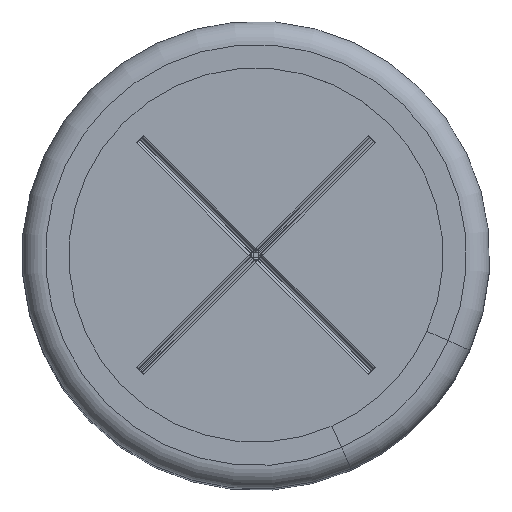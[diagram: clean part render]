
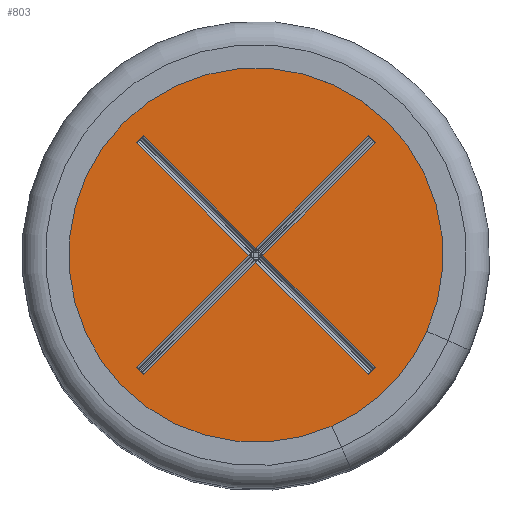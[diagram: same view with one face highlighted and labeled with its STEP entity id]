
A CAD part, top view. The second image highlights one B-rep face of the part: STEP entity #803.
In plain terms, the highlighted planar face has unit normal (0, 0, 1).
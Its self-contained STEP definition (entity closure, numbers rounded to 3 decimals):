
#176=FACE_BOUND('',#1284,.T.);
#177=FACE_BOUND('',#1285,.T.);
#687=PLANE('',#4047);
#803=ADVANCED_FACE('',(#176,#177),#687,.T.);
#1284=EDGE_LOOP('',(#2130));
#1285=EDGE_LOOP('',(#2131,#2132,#2133,#2134,#2135,#2136,#2137,#2138,#2139,
#2140,#2141,#2142));
#1517=LINE('',#5710,#1771);
#1518=LINE('',#5713,#1772);
#1519=LINE('',#5715,#1773);
#1520=LINE('',#5717,#1774);
#1521=LINE('',#5719,#1775);
#1522=LINE('',#5721,#1776);
#1523=LINE('',#5723,#1777);
#1524=LINE('',#5725,#1778);
#1525=LINE('',#5727,#1779);
#1526=LINE('',#5729,#1780);
#1527=LINE('',#5731,#1781);
#1528=LINE('',#5733,#1782);
#1771=VECTOR('',#4590,1.);
#1772=VECTOR('',#4591,1.);
#1773=VECTOR('',#4592,1.);
#1774=VECTOR('',#4593,1.);
#1775=VECTOR('',#4594,1.);
#1776=VECTOR('',#4595,1.);
#1777=VECTOR('',#4596,1.);
#1778=VECTOR('',#4597,1.);
#1779=VECTOR('',#4598,1.);
#1780=VECTOR('',#4599,1.);
#1781=VECTOR('',#4600,1.);
#1782=VECTOR('',#4601,1.);
#2130=ORIENTED_EDGE('',*,*,#3368,.F.);
#2131=ORIENTED_EDGE('',*,*,#3369,.F.);
#2132=ORIENTED_EDGE('',*,*,#3370,.T.);
#2133=ORIENTED_EDGE('',*,*,#3371,.T.);
#2134=ORIENTED_EDGE('',*,*,#3372,.T.);
#2135=ORIENTED_EDGE('',*,*,#3373,.T.);
#2136=ORIENTED_EDGE('',*,*,#3374,.T.);
#2137=ORIENTED_EDGE('',*,*,#3375,.T.);
#2138=ORIENTED_EDGE('',*,*,#3376,.T.);
#2139=ORIENTED_EDGE('',*,*,#3377,.T.);
#2140=ORIENTED_EDGE('',*,*,#3378,.F.);
#2141=ORIENTED_EDGE('',*,*,#3379,.T.);
#2142=ORIENTED_EDGE('',*,*,#3380,.T.);
#3038=VERTEX_POINT('',#5709);
#3039=VERTEX_POINT('',#5711);
#3040=VERTEX_POINT('',#5712);
#3041=VERTEX_POINT('',#5714);
#3042=VERTEX_POINT('',#5716);
#3043=VERTEX_POINT('',#5718);
#3044=VERTEX_POINT('',#5720);
#3045=VERTEX_POINT('',#5722);
#3046=VERTEX_POINT('',#5724);
#3047=VERTEX_POINT('',#5726);
#3048=VERTEX_POINT('',#5728);
#3049=VERTEX_POINT('',#5730);
#3050=VERTEX_POINT('',#5732);
#3368=EDGE_CURVE('',#3038,#3038,#3826,.T.);
#3369=EDGE_CURVE('',#3039,#3040,#1517,.T.);
#3370=EDGE_CURVE('',#3039,#3041,#1518,.T.);
#3371=EDGE_CURVE('',#3041,#3042,#1519,.T.);
#3372=EDGE_CURVE('',#3042,#3043,#1520,.T.);
#3373=EDGE_CURVE('',#3043,#3044,#1521,.T.);
#3374=EDGE_CURVE('',#3044,#3045,#1522,.T.);
#3375=EDGE_CURVE('',#3045,#3046,#1523,.T.);
#3376=EDGE_CURVE('',#3046,#3047,#1524,.T.);
#3377=EDGE_CURVE('',#3047,#3048,#1525,.T.);
#3378=EDGE_CURVE('',#3049,#3048,#1526,.T.);
#3379=EDGE_CURVE('',#3049,#3050,#1527,.T.);
#3380=EDGE_CURVE('',#3050,#3040,#1528,.T.);
#3826=CIRCLE('',#4046,9.);
#4046=AXIS2_PLACEMENT_3D('',#5708,#4588,#4589);
#4047=AXIS2_PLACEMENT_3D('',#5734,#4602,#4603);
#4588=DIRECTION('',(0.,0.,-1.));
#4589=DIRECTION('',(-1.,0.,0.));
#4590=DIRECTION('',(0.707,-0.707,0.));
#4591=DIRECTION('',(0.707,0.707,0.));
#4592=DIRECTION('',(-0.707,0.707,0.));
#4593=DIRECTION('',(0.707,0.707,0.));
#4594=DIRECTION('',(0.707,-0.707,0.));
#4595=DIRECTION('',(0.707,0.707,0.));
#4596=DIRECTION('',(0.707,-0.707,0.));
#4597=DIRECTION('',(-0.707,-0.707,0.));
#4598=DIRECTION('',(0.707,-0.707,0.));
#4599=DIRECTION('',(0.707,0.707,0.));
#4600=DIRECTION('',(-0.707,0.707,0.));
#4601=DIRECTION('',(-0.707,-0.707,0.));
#4602=DIRECTION('',(0.,0.,1.));
#4603=DIRECTION('',(1.,0.,0.));
#5708=CARTESIAN_POINT('',(0.,0.,39.8));
#5709=CARTESIAN_POINT('',(-9.,0.,39.8));
#5710=CARTESIAN_POINT('',(-5.056,-4.844,39.8));
#5711=CARTESIAN_POINT('',(-5.1,-4.8,39.8));
#5712=CARTESIAN_POINT('',(-4.8,-5.1,39.8));
#5713=CARTESIAN_POINT('',(-4.65,-4.35,39.8));
#5714=CARTESIAN_POINT('',(-0.3,0.,39.8));
#5715=CARTESIAN_POINT('',(-4.65,4.35,39.8));
#5716=CARTESIAN_POINT('',(-5.1,4.8,39.8));
#5717=CARTESIAN_POINT('',(-4.844,5.056,39.8));
#5718=CARTESIAN_POINT('',(-4.8,5.1,39.8));
#5719=CARTESIAN_POINT('',(-4.35,4.65,39.8));
#5720=CARTESIAN_POINT('',(0.,0.3,39.8));
#5721=CARTESIAN_POINT('',(-4.65,-4.35,39.8));
#5722=CARTESIAN_POINT('',(4.8,5.1,39.8));
#5723=CARTESIAN_POINT('',(4.844,5.056,39.8));
#5724=CARTESIAN_POINT('',(5.1,4.8,39.8));
#5725=CARTESIAN_POINT('',(-4.35,-4.65,39.8));
#5726=CARTESIAN_POINT('',(0.3,0.,39.8));
#5727=CARTESIAN_POINT('',(-4.35,4.65,39.8));
#5728=CARTESIAN_POINT('',(5.1,-4.8,39.8));
#5729=CARTESIAN_POINT('',(5.056,-4.844,39.8));
#5730=CARTESIAN_POINT('',(4.8,-5.1,39.8));
#5731=CARTESIAN_POINT('',(-4.65,4.35,39.8));
#5732=CARTESIAN_POINT('',(0.,-0.3,39.8));
#5733=CARTESIAN_POINT('',(-4.35,-4.65,39.8));
#5734=CARTESIAN_POINT('',(-9.,0.,39.8));
